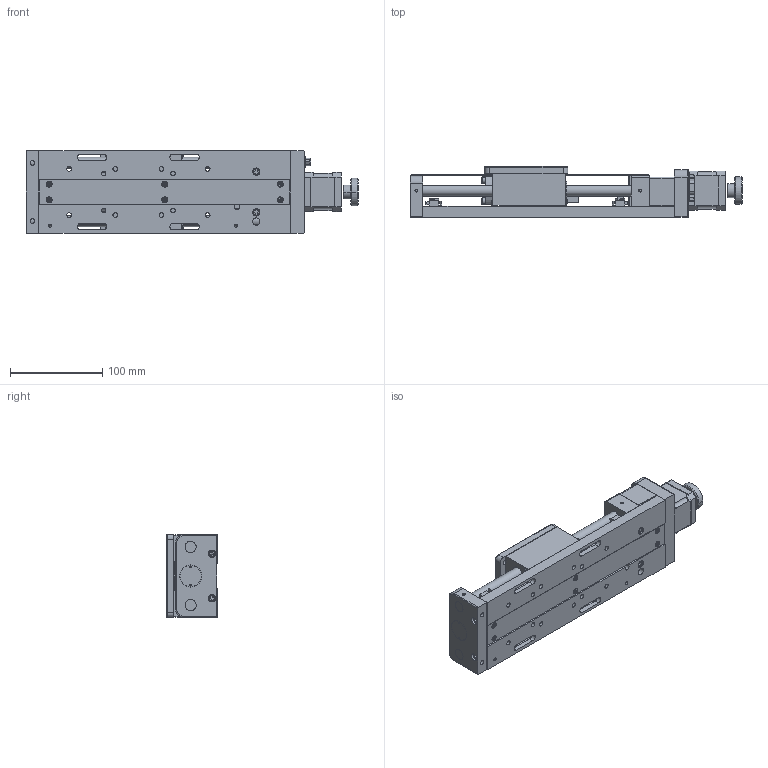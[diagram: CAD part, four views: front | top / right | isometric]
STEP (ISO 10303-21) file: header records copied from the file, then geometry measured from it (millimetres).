
FILE_DESCRIPTION (( 'STEP AP203' ), '1' );
FILE_NAME ('7STA01100Bµç¶¯Æ½ÒÆÌ¨.STEP', '2017-11-20T05:17:30', ( '' ), ( '' ), 'SwSTEP 2.0', 'SolidWorks 2014', '' );
FILE_SCHEMA (( 'CONFIG_CONTROL_DESIGN' ));
Length unit declared in the file: millimetre
Products named in the file (1): 7STA01100B萇雄す痄怢
Bounding box: 359 x 55 x 90 mm (x, y, z)
Surface area: 205504.1 mm2 (no closed solid volume)
Topology: 0 solids, 80 shells, 1007 faces, 3536 edges, 2519 vertices
Faces by surface type: plane 515, cylinder 367, torus 53, cone 44, sphere 28
Entity records: 39042 total; most frequent: CARTESIAN_POINT 8315, DIRECTION 6703, ORIENTED_EDGE 5539, EDGE_CURVE 3482, VERTEX_POINT 2491, AXIS2_PLACEMENT_3D 2409, VECTOR 1885, LINE 1885
